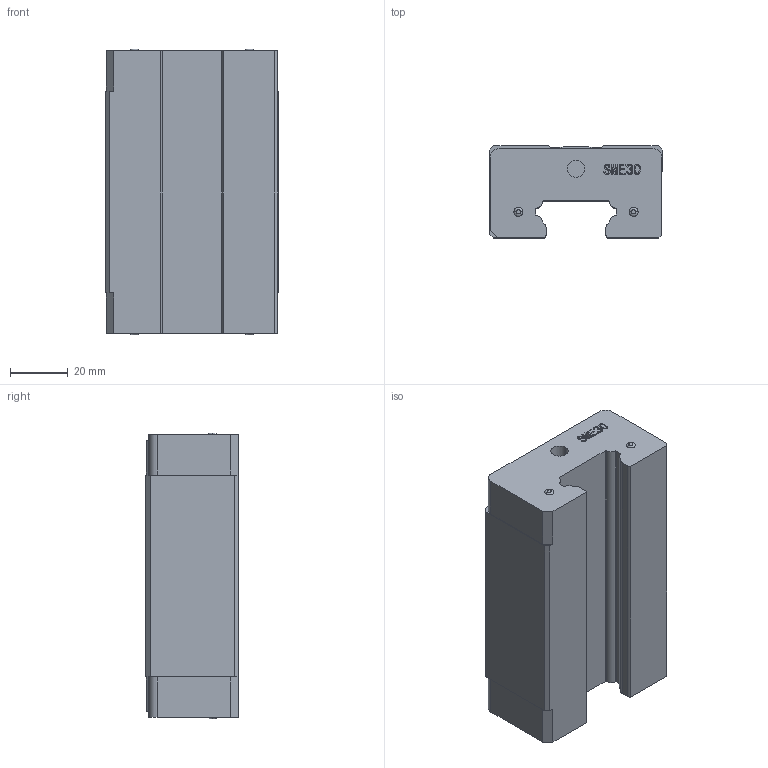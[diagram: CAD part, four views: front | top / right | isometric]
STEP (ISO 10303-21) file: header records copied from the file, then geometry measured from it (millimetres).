
FILE_DESCRIPTION (( 'STEP AP203' ), '1' );
FILE_NAME ('SME30B.stp', '2019-09-21T08:29:40', ( 'pgos' ), ( '' ), 'SwSTEP 2.0', 'SolidWorks 2014', '' );
FILE_SCHEMA (( 'CONFIG_CONTROL_DESIGN' ));
Length unit declared in the file: millimetre
Products named in the file (1): SME30B
Bounding box: 60 x 32 x 99.1 mm (x, y, z)
Volume: 151969 mm3; surface area: 25586.1 mm2
Topology: 1 solids, 1 shells, 169 faces, 435 edges, 286 vertices
Faces by surface type: plane 99, cylinder 34, bspline 20, cone 8, torus 8
Entity records: 7190 total; most frequent: CARTESIAN_POINT 3031, ORIENTED_EDGE 870, DIRECTION 795, EDGE_CURVE 435, LINE 295, VECTOR 295, VERTEX_POINT 286, AXIS2_PLACEMENT_3D 250
